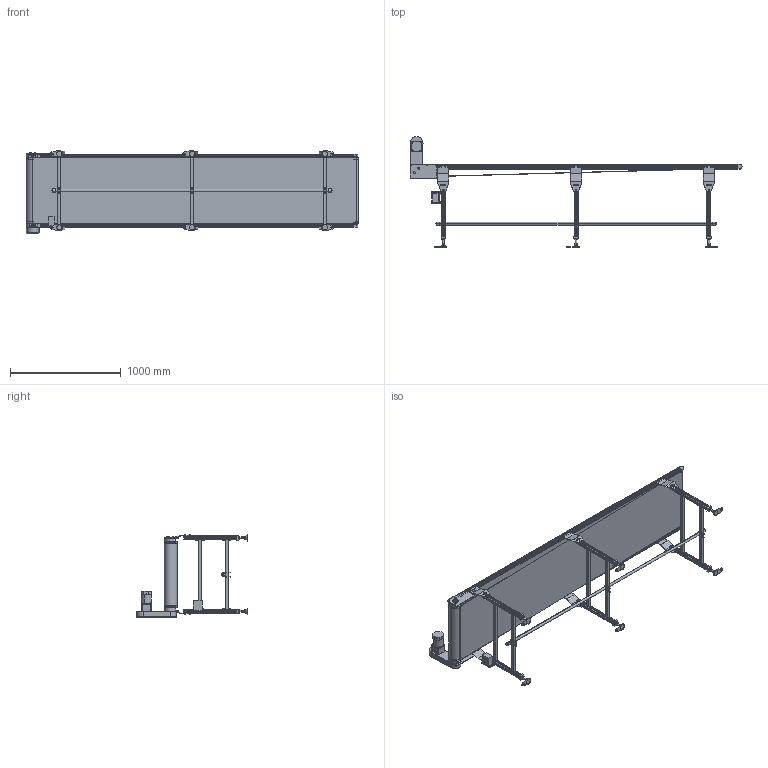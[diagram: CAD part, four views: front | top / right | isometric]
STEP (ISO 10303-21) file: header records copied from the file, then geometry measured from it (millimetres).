
FILE_DESCRIPTION( (''), '2;1');
FILE_NAME ('MB23-OD-309-600-300-R-K-100-O.stp','2025-02-17T10:59:07',(''),(''),'spGate 20.6.2 (****-****-****-****)','','');
FILE_SCHEMA (('AUTOMOTIVE_DESIGN'));
Length unit declared in the file: millimetre
Products named in the file (56): NewModel; MB23-OD-600-3000-R; TEMP_X_T-prt0; TEMP_X_T-prt1; TEMP_X_T-prt2; TEMP_X_T-prt3; TEMP_X_T-prt4; TEMP_X_T-prt5; TEMP_X_T-prt6; TEMP_X_T-prt7; TEMP_X_T-prt8; TEMP_X_T-prt9; TEMP_X_T-prt10; TEMP_X_T-prt11; TEMP_X_T-prt12; TEMP_X_T-prt13; TEMP_X_T-prt14; TEMP_X_T-prt15; TEMP_X_T-prt16; TEMP_X_T-prt17; TEMP_X_T-prt18; TEMP_X_T-prt19; TEMP_X_T-prt20; TEMP_X_T-prt21; TEMP_X_T-prt22; TEMP_X_T-prt23; TEMP_X_T-prt24; TEMP_X_T-prt25; TEMP_X_T-prt26; TEMP_X_T-prt27; TEMP_X_T-prt28; TEMP_X_T-prt29; TEMP_X_T-prt30; TEMP_X_T-prt31; TEMP_X_T-prt32; TEMP_X_T-prt33; TEMP_X_T-prt34; TEMP_X_T-prt35; TEMP_X_T-prt36; TEMP_X_T-prt37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
Assembly tree (55 placements, depth 3):
  NewModel
    MB23-OD-600-3000-R
      TEMP_X_T-prt0
      TEMP_X_T-prt1
      TEMP_X_T-prt2
      TEMP_X_T-prt3
      TEMP_X_T-prt4
      TEMP_X_T-prt5
      TEMP_X_T-prt6
      TEMP_X_T-prt7
      TEMP_X_T-prt8
      TEMP_X_T-prt9
      TEMP_X_T-prt10
      TEMP_X_T-prt11
      TEMP_X_T-prt12
      TEMP_X_T-prt13
      TEMP_X_T-prt14
      TEMP_X_T-prt15
      TEMP_X_T-prt16
      TEMP_X_T-prt17
      TEMP_X_T-prt18
      TEMP_X_T-prt19
      TEMP_X_T-prt20
      TEMP_X_T-prt21
      TEMP_X_T-prt22
      TEMP_X_T-prt23
      TEMP_X_T-prt24
      TEMP_X_T-prt25
      TEMP_X_T-prt26
      TEMP_X_T-prt27
      TEMP_X_T-prt28
      TEMP_X_T-prt29
      TEMP_X_T-prt30
      TEMP_X_T-prt31
      TEMP_X_T-prt32
      TEMP_X_T-prt33
      TEMP_X_T-prt34
      TEMP_X_T-prt35
      TEMP_X_T-prt36
      TEMP_X_T-prt37
      TEMP_X_T-prt38
      TEMP_X_T-prt39
      TEMP_X_T-prt40
      TEMP_X_T-prt41
      TEMP_X_T-prt42
      TEMP_X_T-prt43
      TEMP_X_T-prt44
      TEMP_X_T-prt45
      TEMP_X_T-prt46
      TEMP_X_T-prt47
      TEMP_X_T-prt48
      TEMP_X_T-prt49
      TEMP_X_T-prt50
      TEMP_X_T-prt51
      TEMP_X_T-prt52
      TEMP_X_T-prt53
Bounding box: 3002.15 x 1001.79 x 753.2 mm (x, y, z)
Volume: 28134827.2 mm3; surface area: 14686080.1 mm2
Topology: 54 solids, 54 shells, 2580 faces, 6483 edges, 4189 vertices
Faces by surface type: plane 1816, cylinder 597, bspline 167
Entity records: 133481 total; most frequent: CARTESIAN_POINT 18359, ORIENTED_EDGE 12942, DIRECTION 12241, COLOUR_RGB 9105, PRESENTATION_STYLE_ASSIGNMENT 9105, STYLED_ITEM 9105, EDGE_CURVE 6471, DRAUGHTING_PRE_DEFINED_CURVE_FONT 6471
